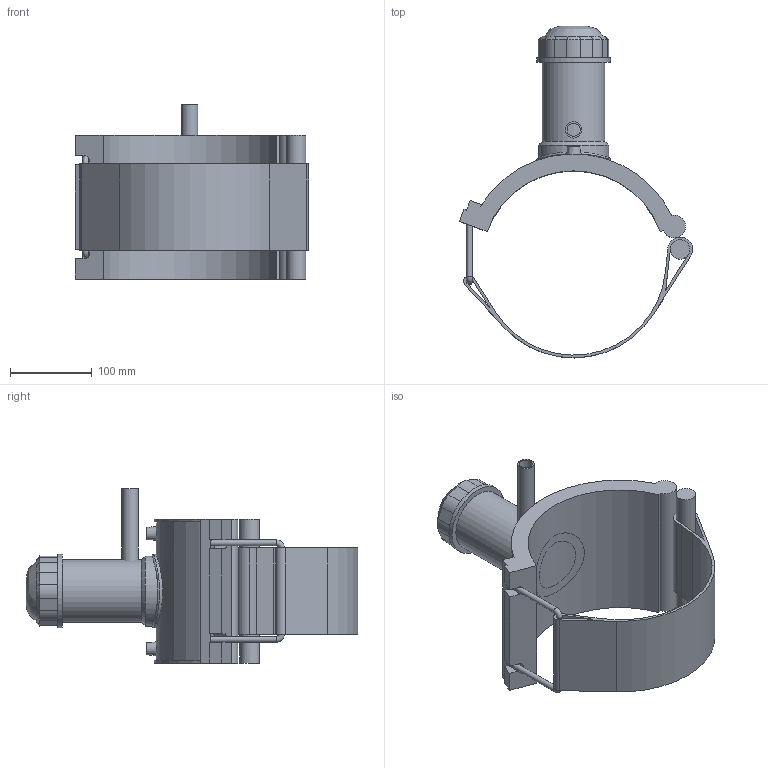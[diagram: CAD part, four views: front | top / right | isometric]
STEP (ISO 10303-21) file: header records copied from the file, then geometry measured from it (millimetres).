
FILE_DESCRIPTION(/* description */ (''),/* implementation_level */ '2;1');
FILE_NAME(/* name */ 'C:\Dropbox\KIMPROJECTS-Inventor 2019\99-16-3568-Processing\ElectroFusion Fittings\4963P4\stp\4963P4225020.stp',/* time_stamp */ '2022-03-17T11:32:13+02:00',/* author */ ('KIM'),/* organization */ (''),/* preprocessor_version */ 'ST-DEVELOPER v17.2',/* originating_system */ 'Autodesk Inventor 2019',/* authorisation */ '');
FILE_SCHEMA (('AUTOMOTIVE_DESIGN { 1 0 10303 214 3 1 1 }'));
Length unit declared in the file: millimetre
Products named in the file (1): 4963P4225020
Bounding box: 284.81 x 405.37 x 213 mm (x, y, z)
Volume: 1896763.9 mm3; surface area: 368893.3 mm2
Topology: 3 solids, 3 shells, 118 faces, 303 edges, 197 vertices
Faces by surface type: plane 65, cylinder 38, cone 11, torus 2, bspline 2
Full cylindrical faces by diameter (mm): 4 x2, 7.2 x2, 10 x2, 16 x1, 20 x1, 23.712 x1, 63 x1, 76.5 x1, 85.5 x1, 90 x2
Entity records: 4128 total; most frequent: CARTESIAN_POINT 1106, DIRECTION 639, ORIENTED_EDGE 608, EDGE_CURVE 304, AXIS2_PLACEMENT_3D 233, VERTEX_POINT 197, LINE 173, VECTOR 173
